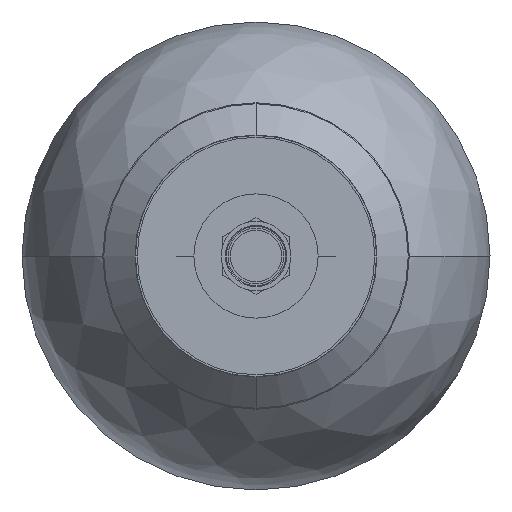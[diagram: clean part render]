
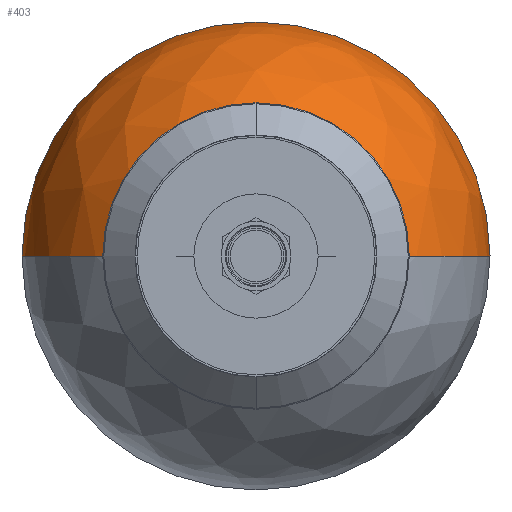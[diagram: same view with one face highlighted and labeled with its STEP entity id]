
A CAD part, front view. The second image highlights one B-rep face of the part: STEP entity #403.
In plain terms, the highlighted free-form (B-spline) face has degree [2, 2] with [3, 9] control points.
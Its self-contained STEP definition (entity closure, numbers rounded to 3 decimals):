
#321=CARTESIAN_POINT('',(-246.943,-49.5,30.));
#322=CARTESIAN_POINT('',(-226.209,-49.5,113.));
#323=CARTESIAN_POINT('',(-140.659,-49.5,113.));
#324=CARTESIAN_POINT('',(-246.943,-19.5,30.));
#325=CARTESIAN_POINT('',(-226.209,63.5,113.0));
#326=CARTESIAN_POINT('',(-140.659,63.5,113.));
#327=CARTESIAN_POINT('',(-246.943,-19.5,0.0));
#328=CARTESIAN_POINT('',(-226.209,63.5,0.));
#329=CARTESIAN_POINT('',(-140.659,63.5,0.));
#330=CARTESIAN_POINT('',(-246.943,-19.5,-30.));
#331=CARTESIAN_POINT('',(-226.209,63.5,-113.));
#332=CARTESIAN_POINT('',(-140.659,63.5,-113.));
#333=CARTESIAN_POINT('',(-246.943,-49.5,-30.));
#334=CARTESIAN_POINT('',(-226.209,-49.5,-113.));
#335=CARTESIAN_POINT('',(-140.659,-49.5,-113.));
#336=CARTESIAN_POINT('',(-246.943,-79.5,-30.));
#337=CARTESIAN_POINT('',(-226.209,-162.5,-113.0));
#338=CARTESIAN_POINT('',(-140.659,-162.5,-113.));
#339=CARTESIAN_POINT('',(-246.943,-79.5,0.0));
#340=CARTESIAN_POINT('',(-226.209,-162.5,0.));
#341=CARTESIAN_POINT('',(-140.659,-162.5,0.));
#342=CARTESIAN_POINT('',(-246.943,-79.5,30.));
#343=CARTESIAN_POINT('',(-226.209,-162.5,113.));
#344=CARTESIAN_POINT('',(-140.659,-162.5,113.));
#345=CARTESIAN_POINT('',(-246.943,-49.5,30.));
#346=CARTESIAN_POINT('',(-226.209,-49.5,113.));
#347=CARTESIAN_POINT('',(-140.659,-49.5,113.));
#355=(BOUNDED_SURFACE()B_SPLINE_SURFACE(2,2,((#321,#324,#327,#330,#333,#336,#339,#342,#345),(#322,#325,#328,#331,#334,#337,#340,#343,#346),(#323,#326,#329,#332,#335,#338,#341,#344,#347)),.UNSPECIFIED.,.F.,.T.,.U.)B_SPLINE_SURFACE_WITH_KNOTS((3,3),(3,2,2,2,3),(-1.326,0.0),(0.0,1.571,3.142,4.712,6.283),.UNSPECIFIED.)GEOMETRIC_REPRESENTATION_ITEM()RATIONAL_B_SPLINE_SURFACE(((1.0,0.707,1.0,0.707,1.0,0.707,1.0,0.707,1.0),(0.788,0.557,0.788,0.557,0.788,0.557,0.788,0.557,0.788),(1.0,0.707,1.0,0.707,1.0,0.707,1.0,0.707,1.0)))REPRESENTATION_ITEM('')SURFACE());
#356=CARTESIAN_POINT('',(-140.659,-49.5,-113.0));
#357=VERTEX_POINT('',#356);
#358=CARTESIAN_POINT('',(-246.943,-49.5,-30.0));
#359=VERTEX_POINT('',#358);
#360=CARTESIAN_POINT('',(-140.659,-49.5,-3.45));
#361=DIRECTION('',(0.0,1.0,0.0));
#362=DIRECTION('',(0.0,0.0,-1.0));
#363=AXIS2_PLACEMENT_3D('',#360,#361,#362);
#364=CIRCLE('',#363,109.55);
#365=EDGE_CURVE('',#357,#359,#364,.T.);
#366=ORIENTED_EDGE('',*,*,#365,.F.);
#367=CARTESIAN_POINT('',(-140.659,-162.5,0.));
#368=VERTEX_POINT('',#367);
#369=CARTESIAN_POINT('',(-140.659,-49.5,0.0));
#370=DIRECTION('',(1.0,0.0,0.0));
#371=DIRECTION('',(0.0,1.0,0.0));
#372=AXIS2_PLACEMENT_3D('',#369,#370,#371);
#373=CIRCLE('',#372,113.0);
#374=EDGE_CURVE('',#368,#357,#373,.T.);
#375=ORIENTED_EDGE('',*,*,#374,.F.);
#376=CARTESIAN_POINT('',(-140.659,-49.5,113.0));
#377=VERTEX_POINT('',#376);
#378=CARTESIAN_POINT('',(-140.659,-49.5,0.0));
#379=DIRECTION('',(1.0,0.0,0.0));
#380=DIRECTION('',(0.0,1.0,0.0));
#381=AXIS2_PLACEMENT_3D('',#378,#379,#380);
#382=CIRCLE('',#381,113.0);
#383=EDGE_CURVE('',#377,#368,#382,.T.);
#384=ORIENTED_EDGE('',*,*,#383,.F.);
#385=CARTESIAN_POINT('',(-246.943,-49.5,30.0));
#386=VERTEX_POINT('',#385);
#387=CARTESIAN_POINT('',(-140.659,-49.5,3.45));
#388=DIRECTION('',(0.0,-1.0,0.0));
#389=DIRECTION('',(0.0,0.0,1.0));
#390=AXIS2_PLACEMENT_3D('',#387,#388,#389);
#391=CIRCLE('',#390,109.55);
#392=EDGE_CURVE('',#377,#386,#391,.T.);
#393=ORIENTED_EDGE('',*,*,#392,.T.);
#394=CARTESIAN_POINT('',(-246.943,-49.5,0.0));
#395=DIRECTION('',(1.0,0.0,0.0));
#396=DIRECTION('',(0.0,1.0,0.0));
#397=AXIS2_PLACEMENT_3D('',#394,#395,#396);
#398=CIRCLE('',#397,30.0);
#399=EDGE_CURVE('',#386,#359,#398,.T.);
#400=ORIENTED_EDGE('',*,*,#399,.T.);
#401=EDGE_LOOP('',(#366,#375,#384,#393,#400));
#402=FACE_OUTER_BOUND('',#401,.T.);
#403=ADVANCED_FACE('',(#402),#355,.T.);
